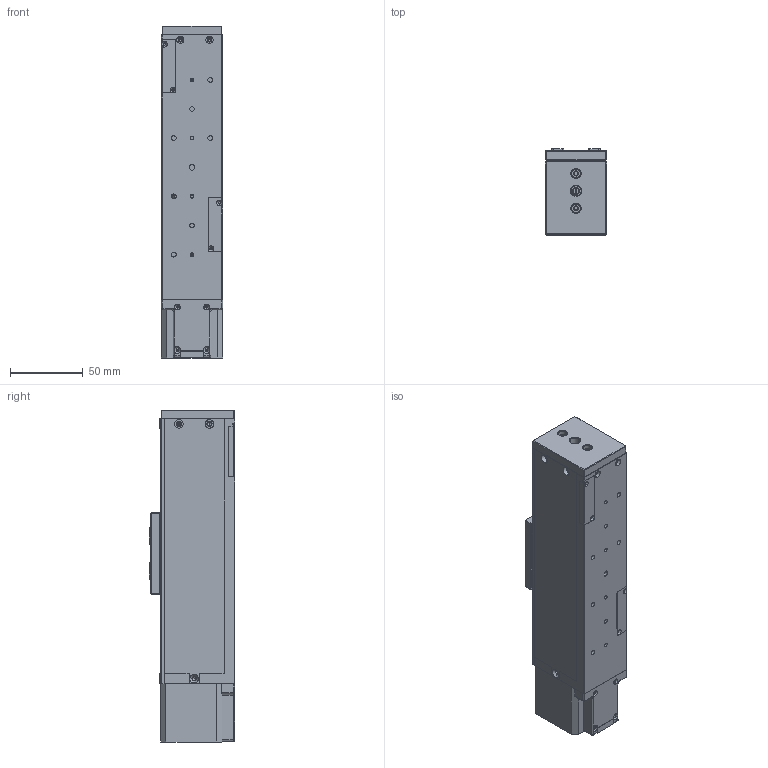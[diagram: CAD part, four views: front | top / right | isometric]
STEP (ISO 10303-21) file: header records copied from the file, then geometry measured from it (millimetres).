
FILE_DESCRIPTION (( 'STEP AP203' ), '1' );
FILE_NAME ('EMF42A40-B05P100.STEP', '2023-10-28T06:16:14', ( '' ), ( '' ), 'SwSTEP 2.0', 'SolidWorks 2023', '' );
FILE_SCHEMA (( 'CONFIG_CONTROL_DESIGN' ));
Length unit declared in the file: millimetre
Products named in the file (19): 28-42后导光片; 42A40-GZ0805-182电机; 28-42端子线路板; 42-100防尘钢带底板; MGN15-164导轨; 42防尘罩; 0805螺母; 42-100防尘钢带; 42防尘安装板; EMF42A40-B05P100; 42防尘钢带压片; 42A40端子盖; 28-42前导光片; 42-100分体侧板; 42防尘安装座; 42-100光电滑台分体基座; 42光电分体轴承座; 42轴承调节块; MGN15C滑块
Assembly tree (20 placements, depth 2):
  EMF42A40-B05P100
    42-100光电滑台分体基座
    42光电分体轴承座
    42-100分体侧板  x2
    42轴承调节块
    MGN15-164导轨
    MGN15C滑块
    42防尘安装座
    42A40-GZ0805-182电机
    0805螺母
    42-100防尘钢带底板
    42防尘安装板
    42防尘罩
    28-42前导光片
    28-42后导光片
    42A40端子盖
    28-42端子线路板
    42-100防尘钢带
    42防尘钢带压片  x2
Bounding box: 42 x 59 x 228 mm (x, y, z)
Volume: 295454.9 mm3; surface area: 151877.8 mm2
Topology: 20 solids, 20 shells, 1096 faces, 2899 edges, 1816 vertices
Faces by surface type: cylinder 534, plane 400, cone 113, torus 39, bspline 6, sphere 4
Entity records: 49743 total; most frequent: CARTESIAN_POINT 21182, DIRECTION 5690, ORIENTED_EDGE 5446, EDGE_CURVE 2723, AXIS2_PLACEMENT_3D 2074, VERTEX_POINT 1746, VECTOR 1542, LINE 1542
